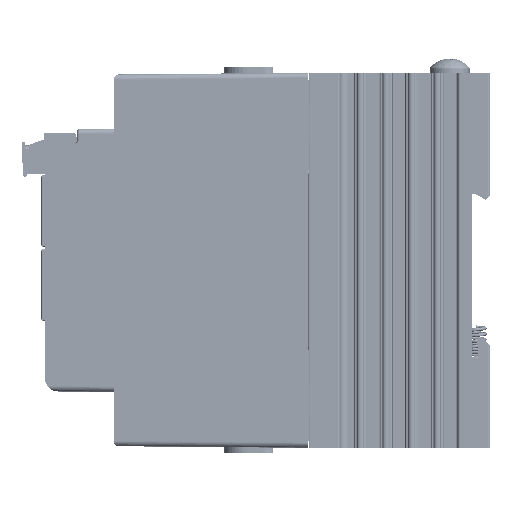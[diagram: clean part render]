
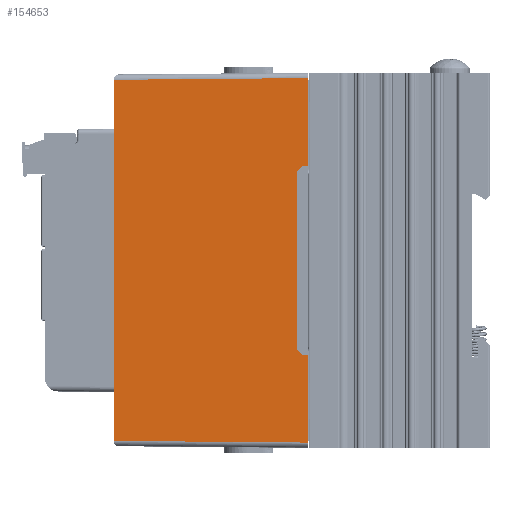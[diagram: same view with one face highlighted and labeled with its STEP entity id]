
A CAD part, left-side view. The second image highlights one B-rep face of the part: STEP entity #154653.
In plain terms, the highlighted planar face has unit normal (-1, 0.009, 0) as drawn and (-1, 0, 0.009) by its records, which use the part's own axes.
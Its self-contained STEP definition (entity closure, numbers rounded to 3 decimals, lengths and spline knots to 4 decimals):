
#15573=FACE_OUTER_BOUND('',#23986,.T.);
#23986=EDGE_LOOP('',(#132717,#132718,#132719,#132720,#132721,#132722,#132723,
#132724,#132725,#132726));
#39183=LINE('',#267111,#56773);
#39978=LINE('',#269081,#57568);
#39981=LINE('',#269086,#57571);
#39983=LINE('',#269091,#57573);
#39989=LINE('',#269102,#57579);
#39993=LINE('',#269110,#57583);
#40001=LINE('',#269130,#57591);
#40002=LINE('',#269132,#57592);
#40003=LINE('',#269134,#57593);
#40004=LINE('',#269135,#57594);
#56773=VECTOR('',#198906,0.3937);
#57568=VECTOR('',#200759,0.3937);
#57571=VECTOR('',#200764,0.3937);
#57573=VECTOR('',#200768,0.3937);
#57579=VECTOR('',#200778,0.3937);
#57583=VECTOR('',#200786,0.3937);
#57591=VECTOR('',#200806,0.3937);
#57592=VECTOR('',#200809,0.3937);
#57593=VECTOR('',#200810,0.3937);
#57594=VECTOR('',#200811,0.3937);
#72019=VERTEX_POINT('',#267108);
#72020=VERTEX_POINT('',#267110);
#72563=VERTEX_POINT('',#269078);
#72564=VERTEX_POINT('',#269080);
#72565=VERTEX_POINT('',#269084);
#72566=VERTEX_POINT('',#269088);
#72567=VERTEX_POINT('',#269090);
#72570=VERTEX_POINT('',#269100);
#72578=VERTEX_POINT('',#269128);
#72579=VERTEX_POINT('',#269133);
#92255=EDGE_CURVE('',#72020,#72019,#39183,.T.);
#93209=EDGE_CURVE('',#72564,#72563,#39978,.T.);
#93212=EDGE_CURVE('',#72563,#72565,#39981,.T.);
#93214=EDGE_CURVE('',#72567,#72566,#39983,.T.);
#93220=EDGE_CURVE('',#72565,#72570,#39989,.T.);
#93224=EDGE_CURVE('',#72570,#72567,#39993,.T.);
#93234=EDGE_CURVE('',#72566,#72578,#40001,.T.);
#93235=EDGE_CURVE('',#72020,#72578,#40002,.T.);
#93236=EDGE_CURVE('',#72579,#72019,#40003,.T.);
#93237=EDGE_CURVE('',#72579,#72564,#40004,.T.);
#132717=ORIENTED_EDGE('',*,*,#93209,.T.);
#132718=ORIENTED_EDGE('',*,*,#93212,.T.);
#132719=ORIENTED_EDGE('',*,*,#93220,.T.);
#132720=ORIENTED_EDGE('',*,*,#93224,.T.);
#132721=ORIENTED_EDGE('',*,*,#93214,.T.);
#132722=ORIENTED_EDGE('',*,*,#93234,.T.);
#132723=ORIENTED_EDGE('',*,*,#93235,.F.);
#132724=ORIENTED_EDGE('',*,*,#92255,.T.);
#132725=ORIENTED_EDGE('',*,*,#93236,.F.);
#132726=ORIENTED_EDGE('',*,*,#93237,.T.);
#147120=PLANE('',#165862);
#154653=ADVANCED_FACE('',(#15573),#147120,.T.);
#165862=AXIS2_PLACEMENT_3D('',#269131,#200807,#200808);
#198906=DIRECTION('',(0.,1.,0.));
#200759=DIRECTION('',(0.009,-0.009,1.));
#200764=DIRECTION('',(0.006,-0.71,0.704));
#200768=DIRECTION('',(-0.009,-0.009,-1.));
#200778=DIRECTION('',(0.,-1.,0.));
#200786=DIRECTION('',(-0.006,-0.71,-0.704));
#200806=DIRECTION('',(0.,-1.,0.));
#200807=DIRECTION('center_axis',(-1.,0.,
0.009));
#200808=DIRECTION('ref_axis',(0.,-1.,0.));
#200809=DIRECTION('',(-0.009,-0.009,-1.));
#200810=DIRECTION('',(0.009,-0.009,1.));
#200811=DIRECTION('',(0.,-1.,0.));
#267108=CARTESIAN_POINT('',(0.0158,3.4342,1.811));
#267110=CARTESIAN_POINT('',(0.0158,0.0658,1.811));
#267111=CARTESIAN_POINT('',(0.0158,3.5,1.811));
#269078=CARTESIAN_POINT('',(0.0005,2.6295,0.0521));
#269080=CARTESIAN_POINT('',(0.,2.63,0.));
#269081=CARTESIAN_POINT('',(0.0001,2.6299,0.0115));
#269084=CARTESIAN_POINT('',(0.0009,2.5762,0.105));
#269086=CARTESIAN_POINT('',(0.0061,1.9795,0.6965));
#269088=CARTESIAN_POINT('',(0.,0.87,0.));
#269090=CARTESIAN_POINT('',(0.0005,0.8705,0.0521));
#269091=CARTESIAN_POINT('',(0.0002,0.8702,0.0223));
#269100=CARTESIAN_POINT('',(0.0009,0.9238,0.105));
#269102=CARTESIAN_POINT('',(0.0009,1.2881,0.105));
#269110=CARTESIAN_POINT('',(-0.0013,0.6646,-0.152));
#269128=CARTESIAN_POINT('',(0.,0.05,0.));
#269130=CARTESIAN_POINT('',(0.,3.5,0.));
#269131=CARTESIAN_POINT('Origin',(0.,0.,0.));
#269132=CARTESIAN_POINT('',(0.0001,0.0501,0.0118));
#269133=CARTESIAN_POINT('',(0.,3.45,0.));
#269134=CARTESIAN_POINT('',(0.0001,3.4499,0.0148));
#269135=CARTESIAN_POINT('',(0.,3.5,0.));
